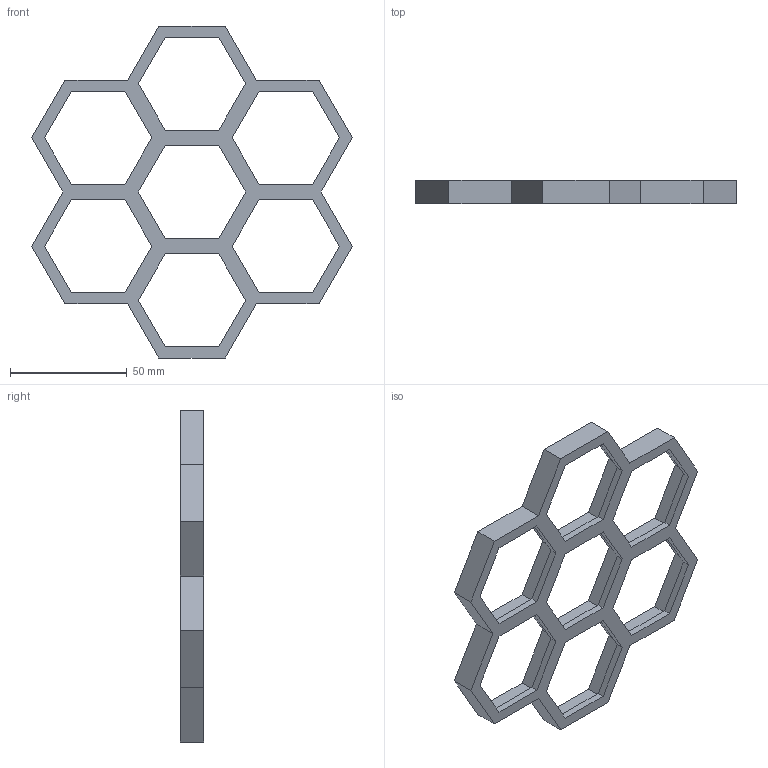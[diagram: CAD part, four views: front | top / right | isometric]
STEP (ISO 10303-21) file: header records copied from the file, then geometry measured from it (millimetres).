
FILE_DESCRIPTION((''),'2;1');
FILE_NAME('JIA-1-3','2024-05-20T17:33:20',('Administrator'),(''),'CREO PARAMETRIC BY PTC INC, 2021063','CREO PARAMETRIC BY PTC INC, 2021063','');
FILE_SCHEMA(('CONFIG_CONTROL_DESIGN'));
Length unit declared in the file: millimetre
Products named in the file (1): JIA-1-3
Bounding box: 137.12 x 10 x 141.9 mm (x, y, z)
Volume: 29024.7 mm3; surface area: 23494.2 mm2
Topology: 1 solids, 1 shells, 111 faces, 306 edges, 204 vertices
Faces by surface type: plane 111
Entity records: 3526 total; most frequent: CARTESIAN_POINT 621, ORIENTED_EDGE 612, DIRECTION 528, VECTOR 306, LINE 306, EDGE_CURVE 306, VERTEX_POINT 204, EDGE_LOOP 132
